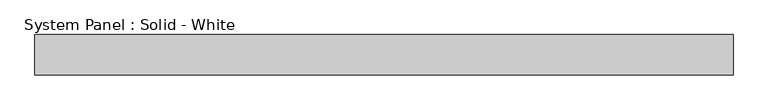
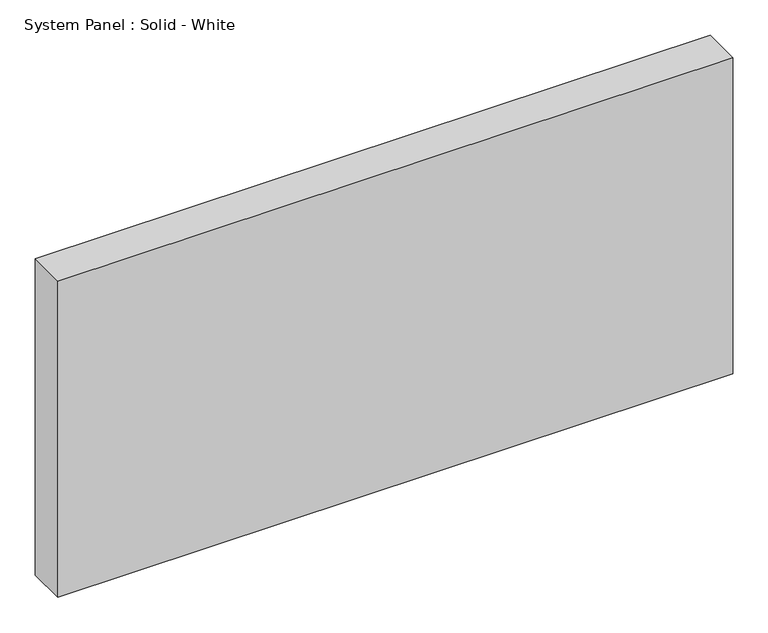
"""IFC4 building model written with IfcOpenShell, lengths in millimetres: plate geometry, System Panel : Solid - White."""

from ifc_helpers import new_model, si_unit, origin, origin_with_axes, place, context, project, spatial, polyline, outline, extrude, source, transform, mapped, element, save


def system_panel_solid_white_bc4d6b4a(model_context):
    return source(origin(), model_context, "Body", "SweptSolid", [
        extrude(outline(polyline([(551.18, -19.05), (-551.18, -19.05), (-551.18, 44.45), (551.18, 44.45), (551.18, -19.05)])), origin_with_axes(), (0.0, 0.0, 1.0), 546.1),
    ])


if __name__ == "__main__":
    model = new_model("IFC4")
    model_context = context("Model", 3, world=origin())
    ifc_project = project(units=[si_unit("LENGTHUNIT", "METRE", prefix="MILLI")], contexts=[model_context])
    site = spatial("IfcSite", under=ifc_project)
    building = spatial("IfcBuilding", under=site)
    placement = place(None, origin())
    system_panel_solid_white_shape = system_panel_solid_white_bc4d6b4a(model_context)
    element("IfcPlate", 1, ObjectType="System Panel : Solid - White", at=placement, inside=building, context=model_context, shape_type="MappedRepresentation", body=[
        mapped(system_panel_solid_white_shape, transform((0.0, 0.0, 0.0), x_axis=(1.0, 0.0, 0.0), y_axis=(0.0, 1.0, 0.0), z_axis=(0.0, 0.0, 1.0))),
    ])
    save(model, "model.ifc")
